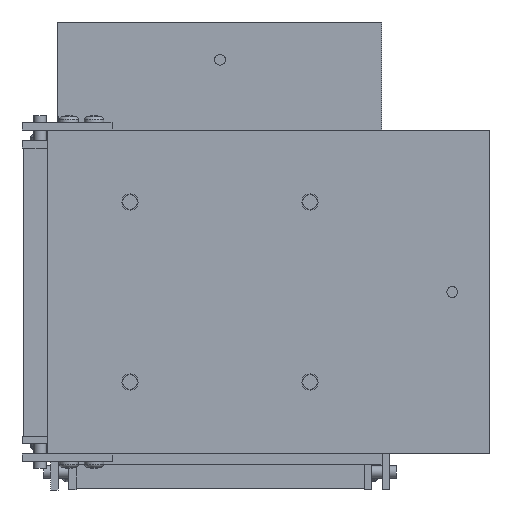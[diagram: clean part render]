
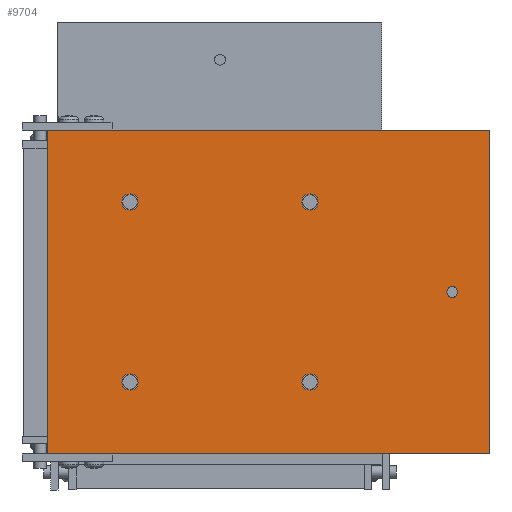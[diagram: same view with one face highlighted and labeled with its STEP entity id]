
A CAD part, front view. The second image highlights one B-rep face of the part: STEP entity #9704.
In plain terms, the highlighted planar face has unit normal (0, -1, 0).
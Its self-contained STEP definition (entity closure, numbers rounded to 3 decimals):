
#689 = CARTESIAN_POINT ( 'NONE',  ( 11.5, 0., 22.75 ) ) ;
#690 = CARTESIAN_POINT ( 'NONE',  ( 11.5, 0., 27.25 ) ) ;
#1068 = DIRECTION ( 'NONE',  ( 0., 0., 1. ) ) ;
#1069 = DIRECTION ( 'NONE',  ( 0., 1., 0. ) ) ;
#1070 = CARTESIAN_POINT ( 'NONE',  ( 51., 0., 0. ) ) ;
#1071 = AXIS2_PLACEMENT_3D ( 'NONE', #1070, #1069, #1068 ) ;
#1072 = CARTESIAN_POINT ( 'NONE',  ( 51., 0., -1.5 ) ) ;
#1095 = CIRCLE ( 'NONE', #1071, 1.5 ) ;
#1226 = CARTESIAN_POINT ( 'NONE',  ( 11.5, 0., -22.75 ) ) ;
#1231 = CARTESIAN_POINT ( 'NONE',  ( 51., 0., 1.5 ) ) ;
#1258 = DIRECTION ( 'NONE',  ( 0., 1., 0. ) ) ;
#1259 = CARTESIAN_POINT ( 'NONE',  ( -38.5, 0., 25. ) ) ;
#1260 = AXIS2_PLACEMENT_3D ( 'NONE', #1259, #1258, #1461 ) ;
#1265 = CIRCLE ( 'NONE', #1260, 2.25 ) ;
#1454 = DIRECTION ( 'NONE',  ( 0., 0., 1. ) ) ;
#1455 = DIRECTION ( 'NONE',  ( 0., 1., 0. ) ) ;
#1456 = CARTESIAN_POINT ( 'NONE',  ( 11.5, 0., 25. ) ) ;
#1457 = AXIS2_PLACEMENT_3D ( 'NONE', #1456, #1455, #1454 ) ;
#1458 = CIRCLE ( 'NONE', #1457, 2.25 ) ;
#1459 = CARTESIAN_POINT ( 'NONE',  ( -38.5, 0., 27.25 ) ) ;
#1460 = CARTESIAN_POINT ( 'NONE',  ( -38.5, 0., 22.75 ) ) ;
#1461 = DIRECTION ( 'NONE',  ( 0., 0., 1. ) ) ;
#2499 = DIRECTION ( 'NONE',  ( 0., 0., 1. ) ) ;
#2500 = DIRECTION ( 'NONE',  ( 0., 1., 0. ) ) ;
#2501 = CARTESIAN_POINT ( 'NONE',  ( 11.5, 0., -25. ) ) ;
#2502 = AXIS2_PLACEMENT_3D ( 'NONE', #2501, #2500, #2499 ) ;
#2503 = CIRCLE ( 'NONE', #2502, 2.25 ) ;
#2504 = DIRECTION ( 'NONE',  ( 0., 0., 1. ) ) ;
#2505 = DIRECTION ( 'NONE',  ( 0., 1., 0. ) ) ;
#2506 = CARTESIAN_POINT ( 'NONE',  ( -38.5, 0., -25. ) ) ;
#2507 = AXIS2_PLACEMENT_3D ( 'NONE', #2506, #2505, #2504 ) ;
#2508 = CIRCLE ( 'NONE', #2507, 2.25 ) ;
#2509 = DIRECTION ( 'NONE',  ( 0., 0., 1. ) ) ;
#2510 = DIRECTION ( 'NONE',  ( 0., 1., 0. ) ) ;
#2511 = CARTESIAN_POINT ( 'NONE',  ( 11.5, 0., 25. ) ) ;
#2512 = AXIS2_PLACEMENT_3D ( 'NONE', #2511, #2510, #2509 ) ;
#2513 = CIRCLE ( 'NONE', #2512, 2.25 ) ;
#2521 = LINE ( 'NONE', #2583, #2531 ) ;
#2529 = CARTESIAN_POINT ( 'NONE',  ( -61.5, 0., -45. ) ) ;
#2530 = DIRECTION ( 'NONE',  ( 1., 0., 0. ) ) ;
#2531 = VECTOR ( 'NONE', #2530, 1000. ) ;
#2568 = CARTESIAN_POINT ( 'NONE',  ( -61.5, 0., 45. ) ) ;
#2583 = CARTESIAN_POINT ( 'NONE',  ( -61.5, 0., -45. ) ) ;
#2738 = CARTESIAN_POINT ( 'NONE',  ( 61.5, 0., -45. ) ) ;
#2743 = DIRECTION ( 'NONE',  ( 0., 0., 1. ) ) ;
#2744 = DIRECTION ( 'NONE',  ( 0., 1., 0. ) ) ;
#2745 = CARTESIAN_POINT ( 'NONE',  ( -38.5, 0., 25. ) ) ;
#2746 = AXIS2_PLACEMENT_3D ( 'NONE', #2745, #2744, #2743 ) ;
#2747 = CIRCLE ( 'NONE', #2746, 2.25 ) ;
#2796 = AXIS2_PLACEMENT_3D ( 'NONE', #2866, #2865, #2864 ) ;
#2815 = CARTESIAN_POINT ( 'NONE',  ( 61.5, 0., 45. ) ) ;
#2833 = DIRECTION ( 'NONE',  ( 1., 0., 0. ) ) ;
#2834 = VECTOR ( 'NONE', #2833, 1000. ) ;
#2835 = CARTESIAN_POINT ( 'NONE',  ( -61.5, 0., 45. ) ) ;
#2836 = LINE ( 'NONE', #2835, #2834 ) ;
#2837 = DIRECTION ( 'NONE',  ( 0., 0., -1. ) ) ;
#2838 = VECTOR ( 'NONE', #2837, 1000. ) ;
#2839 = CARTESIAN_POINT ( 'NONE',  ( 61.5, 0., 45. ) ) ;
#2840 = LINE ( 'NONE', #2839, #2838 ) ;
#2864 = DIRECTION ( 'NONE',  ( 0., 0., 1. ) ) ;
#2865 = DIRECTION ( 'NONE',  ( 0., 1., 0. ) ) ;
#2866 = CARTESIAN_POINT ( 'NONE',  ( 51., 0., 0. ) ) ;
#2876 = CIRCLE ( 'NONE', #2796, 1.5 ) ;
#2938 = PLANE ( 'NONE',  #3132 ) ;
#2939 = FACE_OUTER_BOUND ( 'NONE', #9793, .T. ) ;
#2940 = FACE_BOUND ( 'NONE', #9728, .T. ) ;
#2941 = FACE_BOUND ( 'NONE', #9606, .T. ) ;
#2942 = FACE_BOUND ( 'NONE', #9683, .T. ) ;
#2943 = FACE_BOUND ( 'NONE', #9670, .T. ) ;
#2944 = FACE_BOUND ( 'NONE', #9375, .T. ) ;
#3087 = DIRECTION ( 'NONE',  ( 0., 0., -1. ) ) ;
#3088 = VECTOR ( 'NONE', #3087, 1000. ) ;
#3089 = CARTESIAN_POINT ( 'NONE',  ( -61.5, 0., 45. ) ) ;
#3090 = LINE ( 'NONE', #3089, #3088 ) ;
#3129 = DIRECTION ( 'NONE',  ( 0., 0., 1. ) ) ;
#3130 = DIRECTION ( 'NONE',  ( 0., 1., 0. ) ) ;
#3131 = CARTESIAN_POINT ( 'NONE',  ( -61.5, 0., 45. ) ) ;
#3132 = AXIS2_PLACEMENT_3D ( 'NONE', #3131, #3130, #3129 ) ;
#5799 = CARTESIAN_POINT ( 'NONE',  ( -38.5, 0., -22.75 ) ) ;
#5800 = CARTESIAN_POINT ( 'NONE',  ( -38.5, 0., -27.25 ) ) ;
#5801 = DIRECTION ( 'NONE',  ( 0., 0., 1. ) ) ;
#5802 = DIRECTION ( 'NONE',  ( 0., 1., 0. ) ) ;
#5803 = CARTESIAN_POINT ( 'NONE',  ( -38.5, 0., -25. ) ) ;
#5804 = AXIS2_PLACEMENT_3D ( 'NONE', #5803, #5802, #5801 ) ;
#5838 = CIRCLE ( 'NONE', #5804, 2.25 ) ;
#5908 = CARTESIAN_POINT ( 'NONE',  ( 11.5, 0., -27.25 ) ) ;
#5909 = DIRECTION ( 'NONE',  ( 0., 0., 1. ) ) ;
#5910 = DIRECTION ( 'NONE',  ( 0., 1., 0. ) ) ;
#5911 = AXIS2_PLACEMENT_3D ( 'NONE', #5917, #5910, #5909 ) ;
#5912 = CIRCLE ( 'NONE', #5911, 2.25 ) ;
#5917 = CARTESIAN_POINT ( 'NONE',  ( 11.5, 0., -25. ) ) ;
#8480 = VERTEX_POINT ( 'NONE', #690 ) ;
#8481 = VERTEX_POINT ( 'NONE', #689 ) ;
#8494 = EDGE_CURVE ( 'NONE', #8495, #8496, #1095, .T. ) ;
#8495 = VERTEX_POINT ( 'NONE', #1072 ) ;
#8496 = VERTEX_POINT ( 'NONE', #1231 ) ;
#8507 = VERTEX_POINT ( 'NONE', #1226 ) ;
#8596 = EDGE_CURVE ( 'NONE', #8597, #8598, #5838, .T. ) ;
#8597 = VERTEX_POINT ( 'NONE', #5800 ) ;
#8598 = VERTEX_POINT ( 'NONE', #5799 ) ;
#8622 = EDGE_CURVE ( 'NONE', #8623, #8507, #5912, .T. ) ;
#8623 = VERTEX_POINT ( 'NONE', #5908 ) ;
#8720 = EDGE_CURVE ( 'NONE', #8721, #8722, #1265, .T. ) ;
#8721 = VERTEX_POINT ( 'NONE', #1460 ) ;
#8722 = VERTEX_POINT ( 'NONE', #1459 ) ;
#8724 = EDGE_CURVE ( 'NONE', #8481, #8480, #1458, .T. ) ;
#9375 = EDGE_LOOP ( 'NONE', ( #9604, #9603 ) ) ;
#9376 = VERTEX_POINT ( 'NONE', #2568 ) ;
#9377 = ORIENTED_EDGE ( 'NONE', *, *, #8596, .T. ) ;
#9398 = EDGE_CURVE ( 'NONE', #9399, #9592, #2521, .T. ) ;
#9399 = VERTEX_POINT ( 'NONE', #2529 ) ;
#9470 = EDGE_CURVE ( 'NONE', #8480, #8481, #2513, .T. ) ;
#9474 = EDGE_CURVE ( 'NONE', #8598, #8597, #2508, .T. ) ;
#9476 = EDGE_CURVE ( 'NONE', #8507, #8623, #2503, .T. ) ;
#9535 = ORIENTED_EDGE ( 'NONE', *, *, #9398, .T. ) ;
#9536 = ORIENTED_EDGE ( 'NONE', *, *, #9605, .F. ) ;
#9537 = ORIENTED_EDGE ( 'NONE', *, *, #9612, .F. ) ;
#9555 = EDGE_CURVE ( 'NONE', #8496, #8495, #2876, .T. ) ;
#9576 = VERTEX_POINT ( 'NONE', #2815 ) ;
#9589 = EDGE_CURVE ( 'NONE', #8722, #8721, #2747, .T. ) ;
#9592 = VERTEX_POINT ( 'NONE', #2738 ) ;
#9603 = ORIENTED_EDGE ( 'NONE', *, *, #8494, .T. ) ;
#9604 = ORIENTED_EDGE ( 'NONE', *, *, #9555, .T. ) ;
#9605 = EDGE_CURVE ( 'NONE', #9576, #9592, #2840, .T. ) ;
#9606 = EDGE_LOOP ( 'NONE', ( #9667, #9668 ) ) ;
#9612 = EDGE_CURVE ( 'NONE', #9376, #9576, #2836, .T. ) ;
#9667 = ORIENTED_EDGE ( 'NONE', *, *, #9470, .T. ) ;
#9668 = ORIENTED_EDGE ( 'NONE', *, *, #8724, .T. ) ;
#9670 = EDGE_LOOP ( 'NONE', ( #9789, #9377 ) ) ;
#9683 = EDGE_LOOP ( 'NONE', ( #9706, #9788 ) ) ;
#9694 = ORIENTED_EDGE ( 'NONE', *, *, #9589, .T. ) ;
#9704 = ADVANCED_FACE ( 'NONE', ( #2944, #2943, #2942, #2941, #2940, #2939 ), #2938, .F. ) ;
#9706 = ORIENTED_EDGE ( 'NONE', *, *, #9476, .T. ) ;
#9728 = EDGE_LOOP ( 'NONE', ( #9694, #9761 ) ) ;
#9761 = ORIENTED_EDGE ( 'NONE', *, *, #8720, .T. ) ;
#9788 = ORIENTED_EDGE ( 'NONE', *, *, #8622, .T. ) ;
#9789 = ORIENTED_EDGE ( 'NONE', *, *, #9474, .T. ) ;
#9793 = EDGE_LOOP ( 'NONE', ( #9535, #9536, #9537, #9803 ) ) ;
#9803 = ORIENTED_EDGE ( 'NONE', *, *, #9804, .T. ) ;
#9804 = EDGE_CURVE ( 'NONE', #9376, #9399, #3090, .T. ) ;
